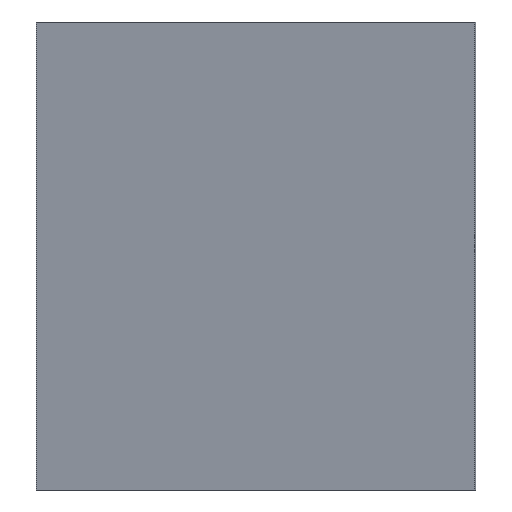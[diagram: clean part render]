
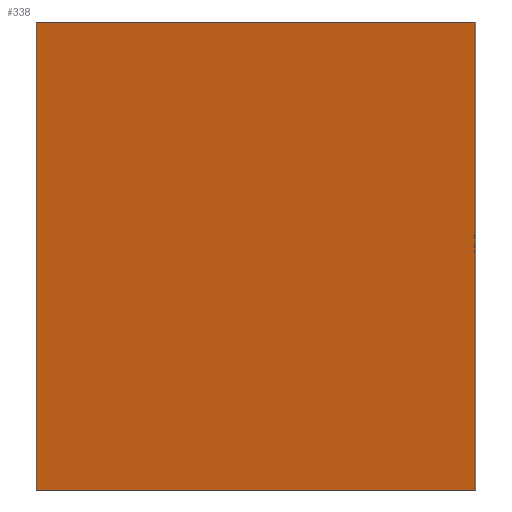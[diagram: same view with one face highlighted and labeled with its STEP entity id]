
A CAD part, left-side view. The second image highlights one B-rep face of the part: STEP entity #338.
In plain terms, the highlighted planar face has unit normal (-0.969, 0.246, 0).
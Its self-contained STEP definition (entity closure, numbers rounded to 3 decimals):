
#24 = VERTEX_POINT('',#25);
#25 = CARTESIAN_POINT('',(-439.973,-145.462,2.5));
#32 = PLANE('',#33);
#33 = AXIS2_PLACEMENT_3D('',#34,#35,#36);
#34 = CARTESIAN_POINT('',(-439.828,-145.499,2.5));
#35 = DIRECTION('',(0.,0.,1.));
#36 = DIRECTION('',(-0.246,-0.969,0.));
#44 = PLANE('',#45);
#45 = AXIS2_PLACEMENT_3D('',#46,#47,#48);
#46 = CARTESIAN_POINT('',(-439.828,-145.499,23.5));
#47 = DIRECTION('',(-0.246,-0.969,-0.));
#48 = DIRECTION('',(0.,0.,-1.));
#56 = EDGE_CURVE('',#24,#57,#59,.T.);
#57 = VERTEX_POINT('',#58);
#58 = CARTESIAN_POINT('',(-444.973,-165.142,2.5));
#59 = SURFACE_CURVE('',#60,(#64,#71),.PCURVE_S1.);
#60 = LINE('',#61,#62);
#61 = CARTESIAN_POINT('',(-439.973,-145.462,2.5));
#62 = VECTOR('',#63,1.);
#63 = DIRECTION('',(-0.246,-0.969,0.));
#64 = PCURVE('',#32,#65);
#65 = DEFINITIONAL_REPRESENTATION('',(#66),#70);
#66 = LINE('',#67,#68);
#67 = CARTESIAN_POINT('',(0.,-0.15));
#68 = VECTOR('',#69,1.);
#69 = DIRECTION('',(1.,0.));
#70 = ( GEOMETRIC_REPRESENTATION_CONTEXT(2) 
PARAMETRIC_REPRESENTATION_CONTEXT() REPRESENTATION_CONTEXT('2D SPACE',''
  ) );
#71 = PCURVE('',#72,#77);
#72 = PLANE('',#73);
#73 = AXIS2_PLACEMENT_3D('',#74,#75,#76);
#74 = CARTESIAN_POINT('',(-442.473,-155.302,13.));
#75 = DIRECTION('',(-0.969,0.246,-0.));
#76 = DIRECTION('',(-0.246,-0.969,0.));
#77 = DEFINITIONAL_REPRESENTATION('',(#78),#82);
#78 = LINE('',#79,#80);
#79 = CARTESIAN_POINT('',(-10.153,-10.5));
#80 = VECTOR('',#81,1.);
#81 = DIRECTION('',(1.,0.));
#82 = ( GEOMETRIC_REPRESENTATION_CONTEXT(2) 
PARAMETRIC_REPRESENTATION_CONTEXT() REPRESENTATION_CONTEXT('2D SPACE',''
  ) );
#100 = PLANE('',#101);
#101 = AXIS2_PLACEMENT_3D('',#102,#103,#104);
#102 = CARTESIAN_POINT('',(-444.828,-165.179,2.5));
#103 = DIRECTION('',(0.246,0.969,-0.));
#104 = DIRECTION('',(0.,0.,1.));
#142 = EDGE_CURVE('',#57,#143,#145,.T.);
#143 = VERTEX_POINT('',#144);
#144 = CARTESIAN_POINT('',(-444.973,-165.142,23.5));
#145 = SURFACE_CURVE('',#146,(#150,#157),.PCURVE_S1.);
#146 = LINE('',#147,#148);
#147 = CARTESIAN_POINT('',(-444.973,-165.142,2.5));
#148 = VECTOR('',#149,1.);
#149 = DIRECTION('',(0.,0.,1.));
#150 = PCURVE('',#100,#151);
#151 = DEFINITIONAL_REPRESENTATION('',(#152),#156);
#152 = LINE('',#153,#154);
#153 = CARTESIAN_POINT('',(0.,-0.15));
#154 = VECTOR('',#155,1.);
#155 = DIRECTION('',(1.,0.));
#156 = ( GEOMETRIC_REPRESENTATION_CONTEXT(2) 
PARAMETRIC_REPRESENTATION_CONTEXT() REPRESENTATION_CONTEXT('2D SPACE',''
  ) );
#157 = PCURVE('',#72,#158);
#158 = DEFINITIONAL_REPRESENTATION('',(#159),#163);
#159 = LINE('',#160,#161);
#160 = CARTESIAN_POINT('',(10.153,-10.5));
#161 = VECTOR('',#162,1.);
#162 = DIRECTION('',(0.,1.));
#163 = ( GEOMETRIC_REPRESENTATION_CONTEXT(2) 
PARAMETRIC_REPRESENTATION_CONTEXT() REPRESENTATION_CONTEXT('2D SPACE',''
  ) );
#181 = PLANE('',#182);
#182 = AXIS2_PLACEMENT_3D('',#183,#184,#185);
#183 = CARTESIAN_POINT('',(-444.828,-165.179,23.5));
#184 = DIRECTION('',(0.,0.,-1.));
#185 = DIRECTION('',(0.246,0.969,0.));
#218 = EDGE_CURVE('',#143,#219,#221,.T.);
#219 = VERTEX_POINT('',#220);
#220 = CARTESIAN_POINT('',(-439.973,-145.462,23.5));
#221 = SURFACE_CURVE('',#222,(#226,#233),.PCURVE_S1.);
#222 = LINE('',#223,#224);
#223 = CARTESIAN_POINT('',(-444.973,-165.142,23.5));
#224 = VECTOR('',#225,1.);
#225 = DIRECTION('',(0.246,0.969,0.));
#226 = PCURVE('',#181,#227);
#227 = DEFINITIONAL_REPRESENTATION('',(#228),#232);
#228 = LINE('',#229,#230);
#229 = CARTESIAN_POINT('',(0.,-0.15));
#230 = VECTOR('',#231,1.);
#231 = DIRECTION('',(1.,0.));
#232 = ( GEOMETRIC_REPRESENTATION_CONTEXT(2) 
PARAMETRIC_REPRESENTATION_CONTEXT() REPRESENTATION_CONTEXT('2D SPACE',''
  ) );
#233 = PCURVE('',#72,#234);
#234 = DEFINITIONAL_REPRESENTATION('',(#235),#239);
#235 = LINE('',#236,#237);
#236 = CARTESIAN_POINT('',(10.153,10.5));
#237 = VECTOR('',#238,1.);
#238 = DIRECTION('',(-1.,0.));
#239 = ( GEOMETRIC_REPRESENTATION_CONTEXT(2) 
PARAMETRIC_REPRESENTATION_CONTEXT() REPRESENTATION_CONTEXT('2D SPACE',''
  ) );
#289 = EDGE_CURVE('',#219,#24,#290,.T.);
#290 = SURFACE_CURVE('',#291,(#295,#302),.PCURVE_S1.);
#291 = LINE('',#292,#293);
#292 = CARTESIAN_POINT('',(-439.973,-145.462,23.5));
#293 = VECTOR('',#294,1.);
#294 = DIRECTION('',(0.,0.,-1.));
#295 = PCURVE('',#44,#296);
#296 = DEFINITIONAL_REPRESENTATION('',(#297),#301);
#297 = LINE('',#298,#299);
#298 = CARTESIAN_POINT('',(0.,-0.15));
#299 = VECTOR('',#300,1.);
#300 = DIRECTION('',(1.,0.));
#301 = ( GEOMETRIC_REPRESENTATION_CONTEXT(2) 
PARAMETRIC_REPRESENTATION_CONTEXT() REPRESENTATION_CONTEXT('2D SPACE',''
  ) );
#302 = PCURVE('',#72,#303);
#303 = DEFINITIONAL_REPRESENTATION('',(#304),#308);
#304 = LINE('',#305,#306);
#305 = CARTESIAN_POINT('',(-10.153,10.5));
#306 = VECTOR('',#307,1.);
#307 = DIRECTION('',(-0.,-1.));
#308 = ( GEOMETRIC_REPRESENTATION_CONTEXT(2) 
PARAMETRIC_REPRESENTATION_CONTEXT() REPRESENTATION_CONTEXT('2D SPACE',''
  ) );
#338 = ADVANCED_FACE('',(#339),#72,.T.);
#339 = FACE_BOUND('',#340,.T.);
#340 = EDGE_LOOP('',(#341,#342,#343,#344));
#341 = ORIENTED_EDGE('',*,*,#56,.T.);
#342 = ORIENTED_EDGE('',*,*,#142,.T.);
#343 = ORIENTED_EDGE('',*,*,#218,.T.);
#344 = ORIENTED_EDGE('',*,*,#289,.T.);
